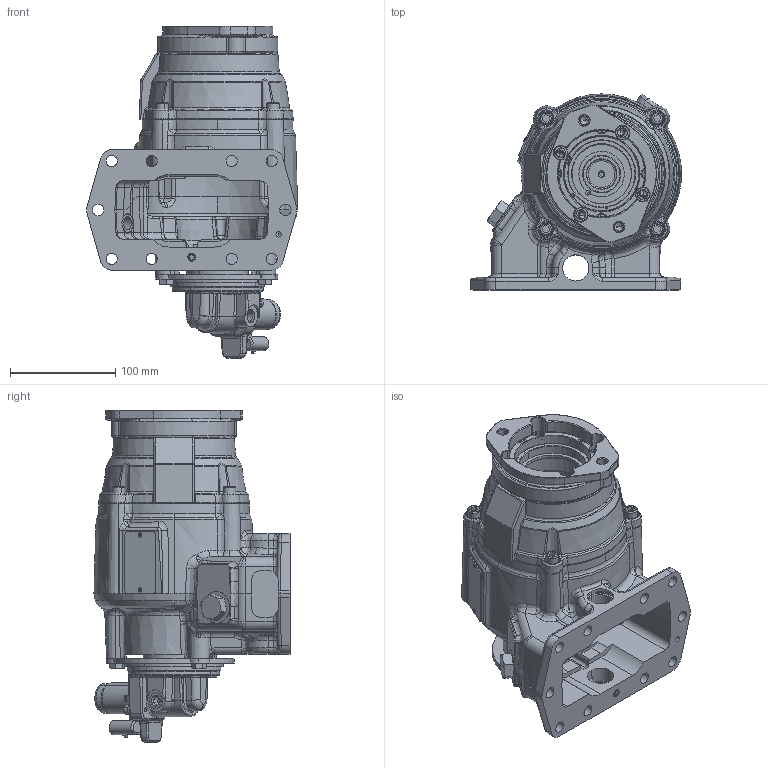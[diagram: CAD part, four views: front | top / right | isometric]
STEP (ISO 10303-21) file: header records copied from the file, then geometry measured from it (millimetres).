
FILE_DESCRIPTION (( 'STEP AP203' ), '1' );
FILE_NAME ('A20-A10XX-HX1TAPX.STEP', '2023-03-23T13:28:54', ( '' ), ( '' ), 'SwSTEP 2.0', 'SolidWorks 2021', '' );
FILE_SCHEMA (( 'CONFIG_CONTROL_DESIGN' ));
Length unit declared in the file: inch
Products named in the file (13): 12T36701; 15T65391DB3; A20-SAE-A-Flange_14T65653.step; 01T43462_1Arrangement; 35T40860; 15T43431_FOR CLAMPS; SC-301_25T37702; 19T62950; 47T6123_15T43431_DUST CAP INSTALLED; DropInSolenoidRearCoverAssembly; 47T6123TMP_Solenoid; A20-A10XX-HX1TAPX; 19T36588_19T36588
Assembly tree (20 placements, depth 4):
  A20-A10XX-HX1TAPX
    01T43462_1Arrangement
    15T65391DB3
    A20-SAE-A-Flange_14T65653.step
    19T36588_19T36588  x8
    DropInSolenoidRearCoverAssembly
      47T6123TMP_Solenoid
      47T6123_15T43431_DUST CAP INSTALLED
        15T43431_FOR CLAMPS
        19T62950  x2
        12T36701
        SC-301_25T37702
    35T40860
Bounding box: 200.33 x 186.36 x 315.55 mm (x, y, z)
Volume: 726804.7 mm3; surface area: 444176.8 mm2
Topology: 24 solids, 37 shells, 3311 faces, 8141 edges, 4956 vertices
Faces by surface type: plane 985, bspline 844, cylinder 764, cone 390, torus 292, sphere 36
Entity records: 155708 total; most frequent: CARTESIAN_POINT 85518, ORIENTED_EDGE 15288, DIRECTION 13022, EDGE_CURVE 7653, AXIS2_PLACEMENT_3D 5172, VERTEX_POINT 4724, EDGE_LOOP 3412, FACE_OUTER_BOUND 3143
